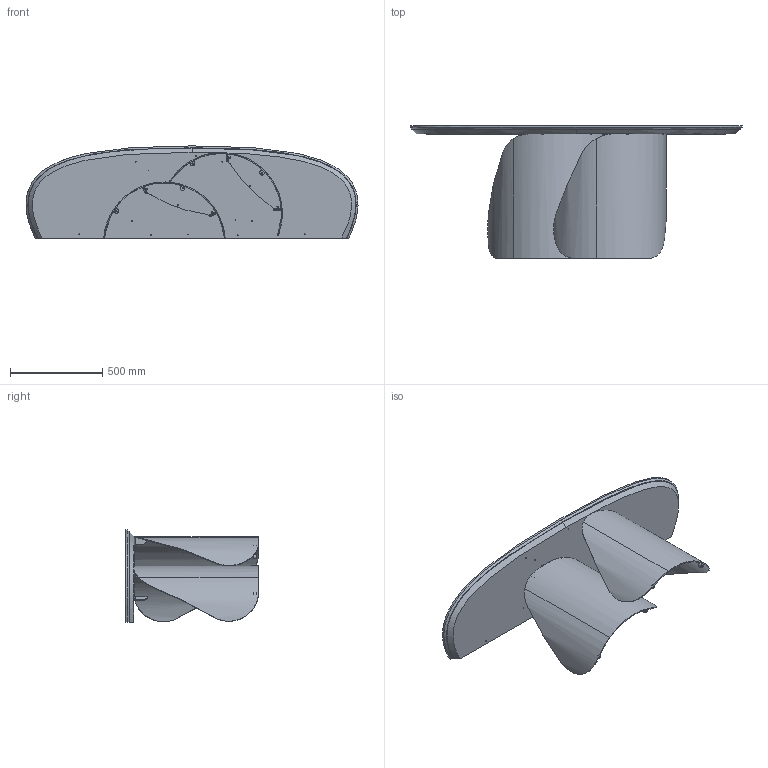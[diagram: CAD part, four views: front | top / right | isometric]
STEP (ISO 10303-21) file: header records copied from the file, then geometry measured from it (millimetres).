
FILE_DESCRIPTION (( 'STEP AP203' ), '1' );
FILE_NAME ('ON61M_Onda Console_180x50x72h_Marble Shaped.STEP', '2024-08-06T09:46:43', ( '' ), ( '' ), 'SwSTEP 2.0', 'SolidWorks 2022', '' );
FILE_SCHEMA (( 'CONFIG_CONTROL_DESIGN' ));
Length unit declared in the file: millimetre
Products named in the file (8): OND000000_02-00-CILINDRO DI FISSAGGIO Ø25X17 M8; OND000000_01-00-PIASTRA SUPERIORE BASE ONDA; TRUXXXX-02-NOBILITATO Sasso per console_180x50; OND000000-03-ONDA BASE GREZZA; KXXXX-00-piani MARMO Sasso per console_180X50; KXXXX-00-piani MARMO Sasso per console_180x50; ON61M_Onda Console_180x50x72h_Marble Shaped; OND000000_03-00-LAMIERA CURVATA PRINCIPALE_OND00000X-00-ONDA BASE GREZZA PROTOTIPO
Assembly tree (9 placements, depth 3):
  ON61M_Onda Console_180x50x72h_Marble Shaped
    KXXXX-00-piani MARMO Sasso per console_180X50
      TRUXXXX-02-NOBILITATO Sasso per console_180x50
      KXXXX-00-piani MARMO Sasso per console_180x50
    OND000000-03-ONDA BASE GREZZA  x2
      OND000000_03-00-LAMIERA CURVATA PRINCIPALE_OND00000X-00-ONDA BASE GREZZA PROTOTIPO
      OND000000_01-00-PIASTRA SUPERIORE BASE ONDA
      OND000000_02-00-CILINDRO DI FISSAGGIO Ø25X17 M8
Bounding box: 1799.9 x 720 x 500 mm (x, y, z)
Volume: 40506879 mm3; surface area: 5596716.1 mm2
Topology: 10 solids, 10 shells, 282 faces, 712 edges, 430 vertices
Faces by surface type: cylinder 128, plane 66, bspline 48, cone 40
Entity records: 10467 total; most frequent: CARTESIAN_POINT 5518, ORIENTED_EDGE 842, DIRECTION 821, EDGE_CURVE 421, AXIS2_PLACEMENT_3D 327, VERTEX_POINT 268, EDGE_LOOP 213, ADVANCED_FACE 183
